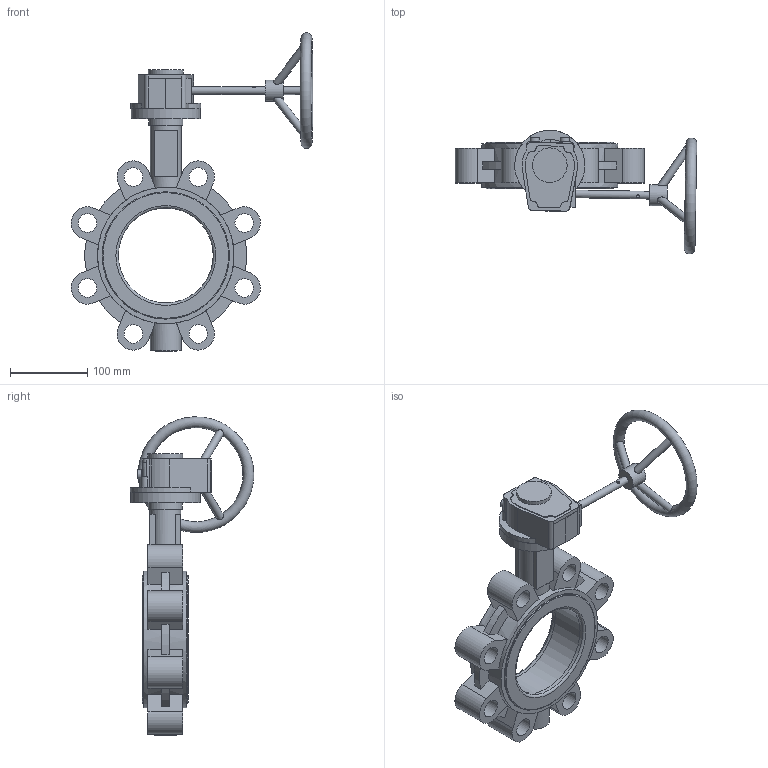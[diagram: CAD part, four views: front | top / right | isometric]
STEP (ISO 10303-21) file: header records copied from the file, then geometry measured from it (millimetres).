
FILE_DESCRIPTION (( 'STEP AP203' ), '1' );
FILE_NAME ('2502 LT型中线衬胶带销 手动头蝶阀 DN125 PN25 CD0309058.STEP', '2026-03-26T02:28:20', ( '' ), ( '' ), 'SwSTEP 2.0', 'SolidWorks 2018', '' );
FILE_SCHEMA (( 'CONFIG_CONTROL_DESIGN' ));
Length unit declared in the file: millimetre
Products named in the file (5): G12L忒雄芛 潠趙; 六角螺塞 M24X1.5; GALA-D125-04AZC-00; 2502 LT型中线衬胶带销 手动头蝶阀 DN125 PN25 CD0309058; GALA-D125-01LC25-00
Assembly tree (4 placements, depth 2):
  2502 LT型中线衬胶带销 手动头蝶阀 DN125 PN25 CD0309058
    GALA-D125-01LC25-00
    GALA-D125-04AZC-00
    六角螺塞 M24X1.5
    G12L忒雄芛 潠趙
Bounding box: 313.12 x 160.16 x 412.54 mm (x, y, z)
Volume: 1822721.1 mm3; surface area: 333477.1 mm2
Topology: 5 solids, 10 shells, 290 faces, 758 edges, 498 vertices
Faces by surface type: plane 137, cylinder 127, cone 9, torus 9, bspline 6, sphere 2
Full cylindrical faces by diameter (mm): 4 x1, 10 x9, 12 x2, 22 x1, 24 x8, 27 x1, 29 x1, 31.6 x1, 34 x1, 40 x2, 44 x1, 45 x1, 90 x1, 91 x1, 123.001 x1, 131 x2, 165 x4, 177 x2
Entity records: 10287 total; most frequent: CARTESIAN_POINT 3034, DIRECTION 1370, ORIENTED_EDGE 1366, EDGE_CURVE 683, AXIS2_PLACEMENT_3D 521, VERTEX_POINT 481, EDGE_LOOP 394, FACE_OUTER_BOUND 337
